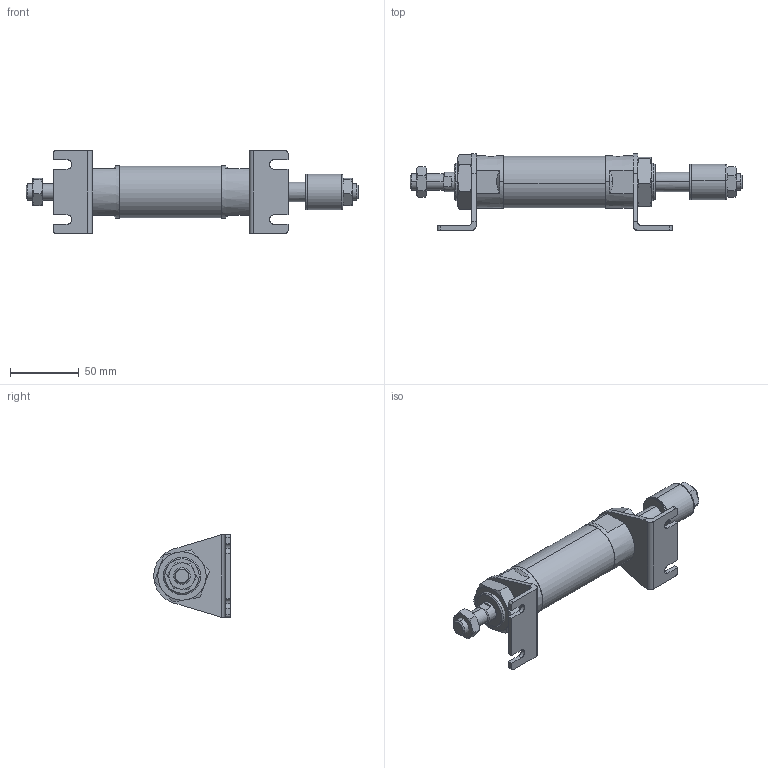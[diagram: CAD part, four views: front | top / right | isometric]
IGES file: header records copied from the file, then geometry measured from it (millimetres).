
Start section: SolidWorks IGES file using analytic representation for surfaces
Global section: file name: C:\Users\Toshiba\Desktop\JGA7-32-25-L.IGS; native system: SolidWorks 2014; preprocessor: SolidWorks 2014; author: Toshiba; date: 160420.095717; units: millimetre
Bounding box: 241 x 55.5 x 60 mm (x, y, z)
Surface area: 55544.6 mm2 (no closed solid volume)
Topology: 0 solids, 0 shells, 225 faces, 3624 edges, 3620 vertices
Faces by surface type: bspline 139, revolution 86
